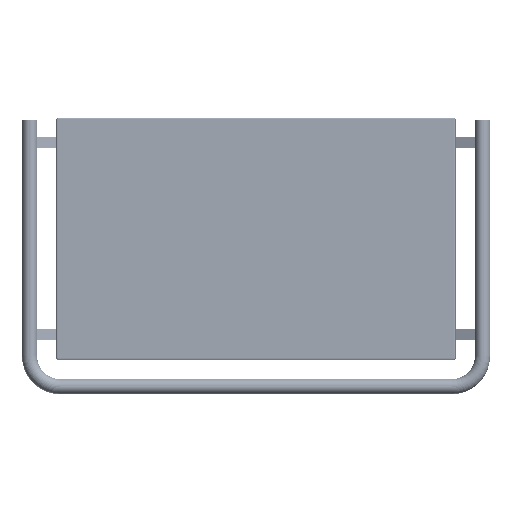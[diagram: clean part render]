
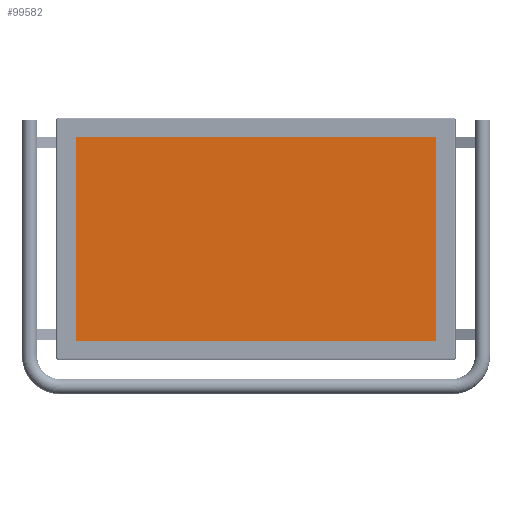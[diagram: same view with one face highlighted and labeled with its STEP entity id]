
A CAD part, top view. The second image highlights one B-rep face of the part: STEP entity #99582.
In plain terms, the highlighted planar face has unit normal (0, 0, 1) as drawn and (0, 1, 0) by its records, which use the part's own axes.
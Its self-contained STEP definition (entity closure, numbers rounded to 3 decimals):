
#2611 = CARTESIAN_POINT ( 'NONE',  ( -238.92, 2.7, 134.655 ) ) ;
#4042 = EDGE_CURVE ( 'NONE', #157746, #172230, #150977, .T. ) ;
#5122 = ORIENTED_EDGE ( 'NONE', *, *, #154744, .T. ) ;
#7073 = CARTESIAN_POINT ( 'NONE',  ( 238.92, 2.7, 134.655 ) ) ;
#7158 = DIRECTION ( 'NONE',  ( 1., 0., 0. ) ) ;
#17798 = VECTOR ( 'NONE', #62450, 1000. ) ;
#19790 = DIRECTION ( 'NONE',  ( 0., 0., -1. ) ) ;
#25164 = CARTESIAN_POINT ( 'NONE',  ( 238.92, 2.7, -134.655 ) ) ;
#31338 = EDGE_CURVE ( 'NONE', #172230, #150256, #144390, .T. ) ;
#43845 = CARTESIAN_POINT ( 'NONE',  ( 238.92, 2.7, 134.655 ) ) ;
#52267 = CARTESIAN_POINT ( 'NONE',  ( 0., 2.7, 0. ) ) ;
#53229 = DIRECTION ( 'NONE',  ( 0., 1., 0. ) ) ;
#62041 = VERTEX_POINT ( 'NONE', #25164 ) ;
#62450 = DIRECTION ( 'NONE',  ( 0., 0., 1. ) ) ;
#66647 = DIRECTION ( 'NONE',  ( -1., 0., 0. ) ) ;
#68918 = PLANE ( 'NONE',  #146343 ) ;
#70620 = CARTESIAN_POINT ( 'NONE',  ( -238.92, 2.7, 134.655 ) ) ;
#72634 = ORIENTED_EDGE ( 'NONE', *, *, #4042, .T. ) ;
#87297 = DIRECTION ( 'NONE',  ( 1., 0., 0. ) ) ;
#88150 = CARTESIAN_POINT ( 'NONE',  ( -238.92, 2.7, -134.655 ) ) ;
#91804 = ORIENTED_EDGE ( 'NONE', *, *, #100078, .T. ) ;
#99582 = ADVANCED_FACE ( 'NONE', ( #156483 ), #68918, .T. ) ;
#100078 = EDGE_CURVE ( 'NONE', #150256, #62041, #154457, .T. ) ;
#113760 = LINE ( 'NONE', #187498, #190949 ) ;
#137167 = CARTESIAN_POINT ( 'NONE',  ( -238.92, 2.7, -134.655 ) ) ;
#144390 = LINE ( 'NONE', #70620, #191782 ) ;
#146343 = AXIS2_PLACEMENT_3D ( 'NONE', #52267, #53229, #7158 ) ;
#150256 = VERTEX_POINT ( 'NONE', #43845 ) ;
#150977 = LINE ( 'NONE', #137167, #17798 ) ;
#154457 = LINE ( 'NONE', #7073, #156025 ) ;
#154744 = EDGE_CURVE ( 'NONE', #62041, #157746, #113760, .T. ) ;
#155536 = ORIENTED_EDGE ( 'NONE', *, *, #31338, .T. ) ;
#156025 = VECTOR ( 'NONE', #19790, 1000. ) ;
#156483 = FACE_OUTER_BOUND ( 'NONE', #182664, .T. ) ;
#157746 = VERTEX_POINT ( 'NONE', #88150 ) ;
#172230 = VERTEX_POINT ( 'NONE', #2611 ) ;
#182664 = EDGE_LOOP ( 'NONE', ( #155536, #91804, #5122, #72634 ) ) ;
#187498 = CARTESIAN_POINT ( 'NONE',  ( 238.92, 2.7, -134.655 ) ) ;
#190949 = VECTOR ( 'NONE', #66647, 1000. ) ;
#191782 = VECTOR ( 'NONE', #87297, 1000. ) ;
